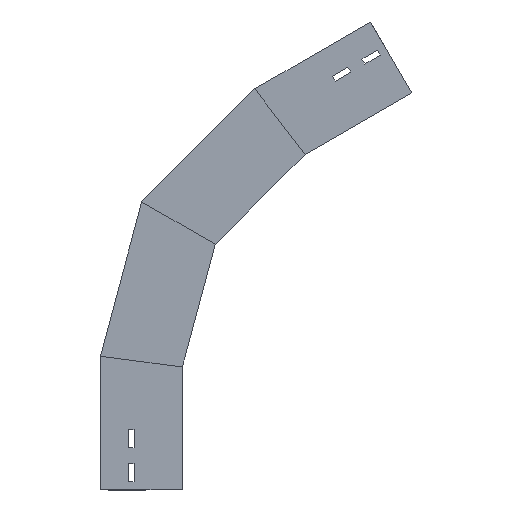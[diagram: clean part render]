
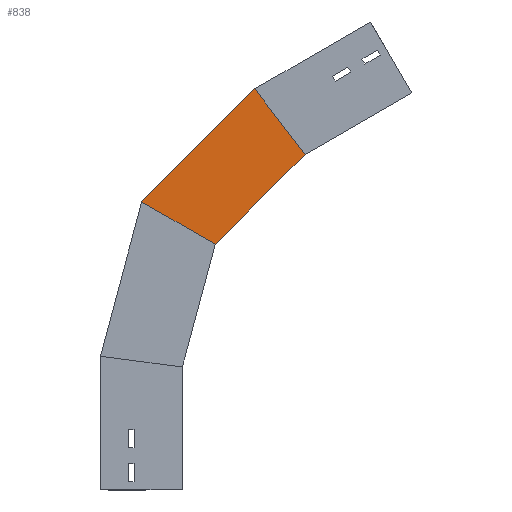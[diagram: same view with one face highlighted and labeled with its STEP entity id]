
A CAD part, left-side view. The second image highlights one B-rep face of the part: STEP entity #838.
In plain terms, the highlighted planar face has unit normal (-1, 0, 0) as drawn and (1, 0, 0) by its records, which use the part's own axes.
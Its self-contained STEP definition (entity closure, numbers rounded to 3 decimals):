
#146 = CARTESIAN_POINT ( 'NONE',  ( 0., -19.411, 147.444 ) ) ;
#151 = ORIENTED_EDGE ( 'NONE', *, *, #999, .T. ) ;
#196 = FACE_OUTER_BOUND ( 'NONE', #1010, .T. ) ;
#213 = VERTEX_POINT ( 'NONE', #1565 ) ;
#235 = ORIENTED_EDGE ( 'NONE', *, *, #1377, .T. ) ;
#351 = LINE ( 'NONE', #1652, #1090 ) ;
#401 = VERTEX_POINT ( 'NONE', #480 ) ;
#406 = DIRECTION ( 'NONE',  ( 1., 0., 0. ) ) ;
#432 = DIRECTION ( 'NONE',  ( 0., -0.991, -0.131 ) ) ;
#461 = PLANE ( 'NONE',  #1147 ) ;
#480 = CARTESIAN_POINT ( 'NONE',  ( 0., -40.117, 299.719 ) ) ;
#567 = LINE ( 'NONE', #146, #1310 ) ;
#601 = EDGE_CURVE ( 'NONE', #754, #213, #567, .T. ) ;
#631 = LINE ( 'NONE', #1136, #1182 ) ;
#754 = VERTEX_POINT ( 'NONE', #1292 ) ;
#838 = ADVANCED_FACE ( 'NONE', ( #196 ), #461, .T. ) ;
#943 = ORIENTED_EDGE ( 'NONE', *, *, #601, .F. ) ;
#979 = EDGE_CURVE ( 'NONE', #213, #401, #631, .T. ) ;
#999 = EDGE_CURVE ( 'NONE', #754, #1417, #1050, .T. ) ;
#1010 = EDGE_LOOP ( 'NONE', ( #151, #235, #1555, #943 ) ) ;
#1037 = DIRECTION ( 'NONE',  ( 0., 0., -1. ) ) ;
#1050 = LINE ( 'NONE', #1457, #1414 ) ;
#1090 = VECTOR ( 'NONE', #1622, 1000. ) ;
#1136 = CARTESIAN_POINT ( 'NONE',  ( 0., 3.774, 135.915 ) ) ;
#1147 = AXIS2_PLACEMENT_3D ( 'NONE', #1501, #406, #1037 ) ;
#1182 = VECTOR ( 'NONE', #1677, 1000. ) ;
#1292 = CARTESIAN_POINT ( 'NONE',  ( 0., 100., 163.165 ) ) ;
#1310 = VECTOR ( 'NONE', #432, 1000. ) ;
#1327 = DIRECTION ( 'NONE',  ( 0., -0.259, 0.966 ) ) ;
#1377 = EDGE_CURVE ( 'NONE', #1417, #401, #351, .T. ) ;
#1414 = VECTOR ( 'NONE', #1327, 1000. ) ;
#1417 = VERTEX_POINT ( 'NONE', #1439 ) ;
#1439 = CARTESIAN_POINT ( 'NONE',  ( 0., 49.541, 351.482 ) ) ;
#1457 = CARTESIAN_POINT ( 'NONE',  ( 0., 100.367, 161.797 ) ) ;
#1501 = CARTESIAN_POINT ( 'NONE',  ( 0., 3.774, 135.915 ) ) ;
#1555 = ORIENTED_EDGE ( 'NONE', *, *, #979, .F. ) ;
#1565 = CARTESIAN_POINT ( 'NONE',  ( 0., 0., 150. ) ) ;
#1622 = DIRECTION ( 'NONE',  ( 0., -0.866, -0.5 ) ) ;
#1652 = CARTESIAN_POINT ( 'NONE',  ( 0., -78.128, 277.773 ) ) ;
#1677 = DIRECTION ( 'NONE',  ( 0., -0.259, 0.966 ) ) ;
